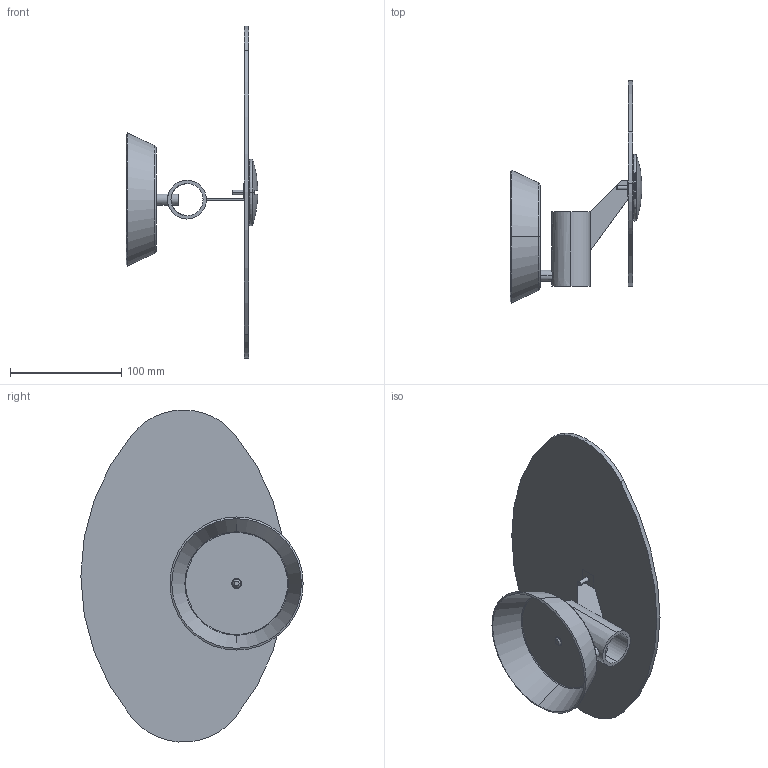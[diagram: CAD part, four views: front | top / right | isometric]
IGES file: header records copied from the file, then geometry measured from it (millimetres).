
Start section: SolidWorks IGES file using analytic representation for surfaces
Global section: file name: X:\stage\BIT\BIT 2.IGS; native system: SolidWorks 2006 by SolidWorks Corporation; preprocessor: SolidWorks 2006 by SolidWorks Corporation; author: stagetec; date: 060919.161130; units: millimetre
Bounding box: 118.41 x 200.07 x 298.81 mm (x, y, z)
Volume: 227160.3 mm3; surface area: 150758.7 mm2
Topology: 5 solids, 5 shells, 82 faces, 178 edges, 112 vertices
Faces by surface type: revolution 54, plane 28
